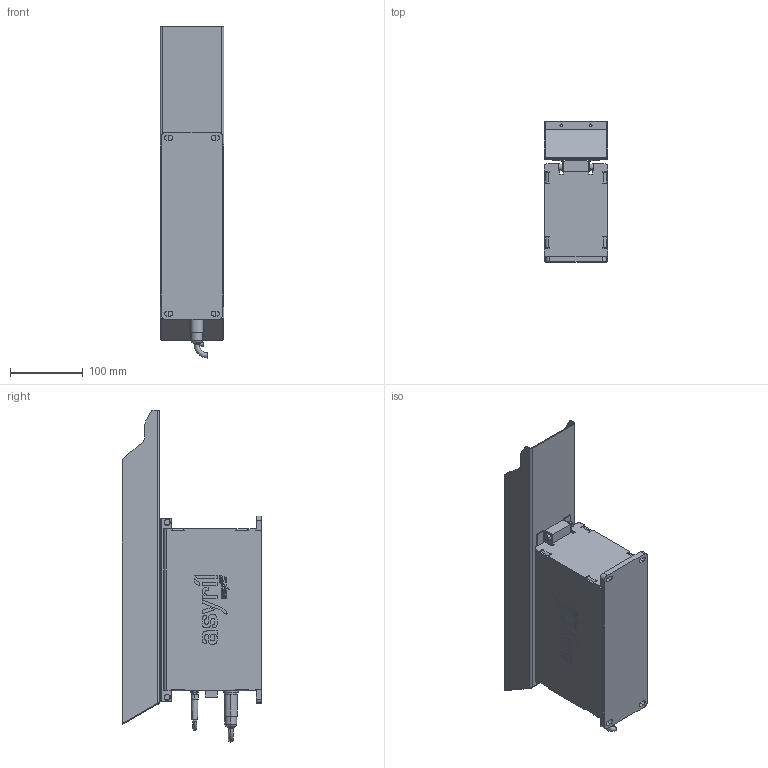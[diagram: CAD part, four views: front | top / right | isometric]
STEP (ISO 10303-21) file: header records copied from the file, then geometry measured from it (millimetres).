
FILE_DESCRIPTION (( 'STEP AP214' ), '1' );
FILE_NAME ('Asyril_ASYFILL_S_1L.STEP', '2023-07-05T08:22:40', ( '%MACHINENAME%' ), ( 'CPA-GROUP.LOCAL' ), 'SwSTEP 2.0', 'SolidWorks 2019', '' );
FILE_SCHEMA (( 'AUTOMOTIVE_DESIGN' ));
Length unit declared in the file: millimetre
Products named in the file (5): Asyril_ASYFILL S_000.106.043; Asyril_FEMALE STRAIGHT 4P Xm M08 MOLDED CABLE_XXX.XXX.XXX_(option); Asyril_1 LITER ASYFILL CONTAINER_000.105.560_(option); Asyril_ASYFILL_S_1L; Asyril_FEMALE STRAIGHT 5P 5m M16 POWER CABLE_900.006.215_(option)
Assembly tree (4 placements, depth 2):
  Asyril_ASYFILL_S_1L
    Asyril_ASYFILL S_000.106.043
    Asyril_1 LITER ASYFILL CONTAINER_000.105.560_(option)
    Asyril_FEMALE STRAIGHT 5P 5m M16 POWER CABLE_900.006.215_(option)
    Asyril_FEMALE STRAIGHT 4P Xm M08 MOLDED CABLE_XXX.XXX.XXX_(option)
Bounding box: 88.02 x 192.73 x 457.11 mm (x, y, z)
Volume: 2849331.7 mm3; surface area: 339458.2 mm2
Topology: 38 solids, 39 shells, 913 faces, 2299 edges, 1488 vertices
Faces by surface type: plane 478, cylinder 228, bspline 169, cone 17, torus 13, sphere 8
Entity records: 31826 total; most frequent: CARTESIAN_POINT 8012, ORIENTED_EDGE 4546, DIRECTION 3797, EDGE_CURVE 2273, VERTEX_POINT 1480, VECTOR 1363, LINE 1363, AXIS2_PLACEMENT_3D 1217
